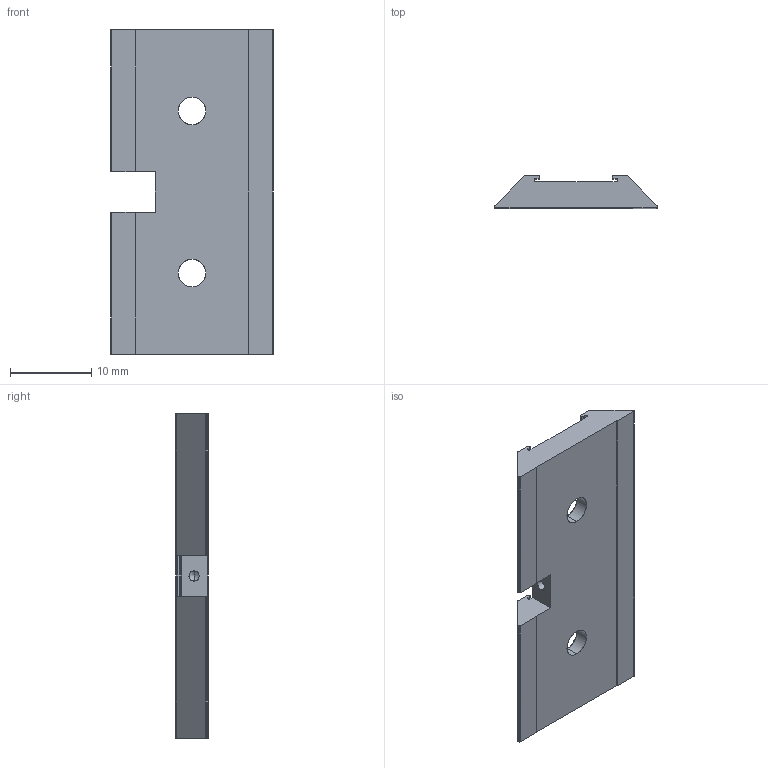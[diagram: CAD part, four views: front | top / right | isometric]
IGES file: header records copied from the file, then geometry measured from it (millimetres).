
Start section: SolidWorks IGES file using analytic representation for surfaces
Global section: file name: D:\CERAR\Dokumenti\DOKUMENTACIJA-mehanskih-delov-RLSizdelkov-\LM10\Profili-za-MS10B-track-scale-system-dokumentacija\SWelements-ANG\Profile-TRE004A00.IGS; native system: SolidWorks 2013; preprocessor: SolidWorks 2013; author: cerar; date: 151127.114205; units: millimetre
Bounding box: 20 x 4 x 40 mm (x, y, z)
Surface area: 2072.2 mm2 (no closed solid volume)
Topology: 0 solids, 0 shells, 70 faces, 746 edges, 744 vertices
Faces by surface type: bspline 37, revolution 33
